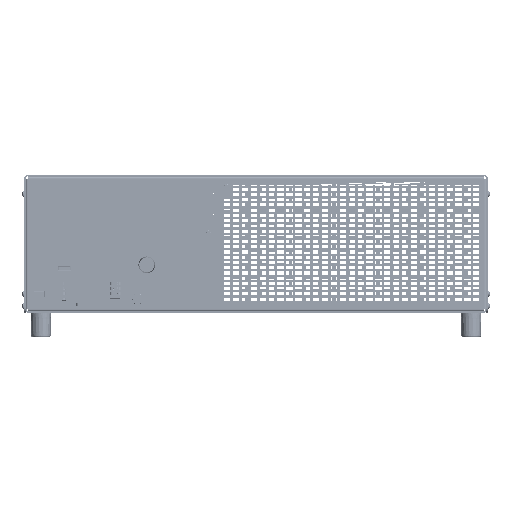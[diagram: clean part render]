
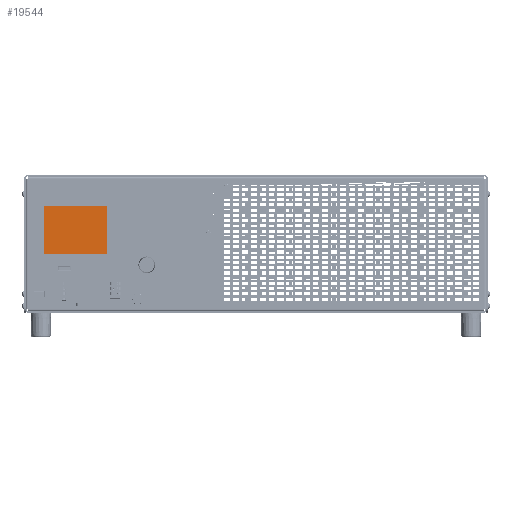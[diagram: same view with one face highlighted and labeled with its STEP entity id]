
A CAD part, front view. The second image highlights one B-rep face of the part: STEP entity #19544.
In plain terms, the highlighted planar face has unit normal (0, -1, 0).
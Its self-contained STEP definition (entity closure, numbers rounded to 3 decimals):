
#19544=ADVANCED_FACE('',(#50379),#50380,.T.);
#50379=FACE_OUTER_BOUND('',#100216,.T.);
#50380=PLANE('',#100217);
#100216=EDGE_LOOP('',(#167977,#167978,#167979,#167980));
#100217=AXIS2_PLACEMENT_3D('',#167981,#167982,#167983);
#167977=ORIENTED_EDGE('',*,*,#273427,.F.);
#167978=ORIENTED_EDGE('',*,*,#273440,.F.);
#167979=ORIENTED_EDGE('',*,*,#273436,.F.);
#167980=ORIENTED_EDGE('',*,*,#273432,.F.);
#167981=CARTESIAN_POINT('',(43.14,-2.2,79.072));
#167982=DIRECTION('',(0.0,-1.0,0.));
#167983=DIRECTION('',(1.0,0.0,0.0));
#273427=EDGE_CURVE('',#323517,#323518,#323519,.T.);
#273432=EDGE_CURVE('',#323518,#323526,#323527,.T.);
#273436=EDGE_CURVE('',#323526,#323532,#323533,.T.);
#273440=EDGE_CURVE('',#323532,#323517,#323538,.T.);
#323517=VERTEX_POINT('',#401878);
#323518=VERTEX_POINT('',#401879);
#323519=LINE('',#401880,#401881);
#323526=VERTEX_POINT('',#401891);
#323527=LINE('',#401892,#401893);
#323532=VERTEX_POINT('',#401900);
#323533=LINE('',#401901,#401902);
#323538=LINE('',#401909,#401910);
#401878=CARTESIAN_POINT('',(12.84,-2.2,102.172));
#401879=CARTESIAN_POINT('',(73.44,-2.2,102.172));
#401880=CARTESIAN_POINT('',(12.84,-2.2,102.172));
#401881=VECTOR('',#514146,1.0);
#401891=CARTESIAN_POINT('',(73.44,-2.2,55.972));
#401892=CARTESIAN_POINT('',(73.44,-2.2,102.172));
#401893=VECTOR('',#514150,1.0);
#401900=CARTESIAN_POINT('',(12.84,-2.2,55.972));
#401901=CARTESIAN_POINT('',(73.44,-2.2,55.972));
#401902=VECTOR('',#514153,1.0);
#401909=CARTESIAN_POINT('',(12.84,-2.2,55.972));
#401910=VECTOR('',#514156,1.0);
#514146=DIRECTION('',(1.0,0.0,0.0));
#514150=DIRECTION('',(0.0,0.,-1.0));
#514153=DIRECTION('',(-1.0,0.0,0.0));
#514156=DIRECTION('',(0.0,0.,1.0));
